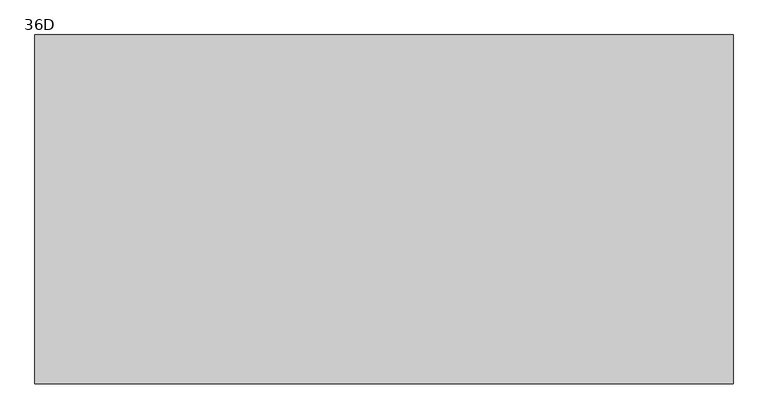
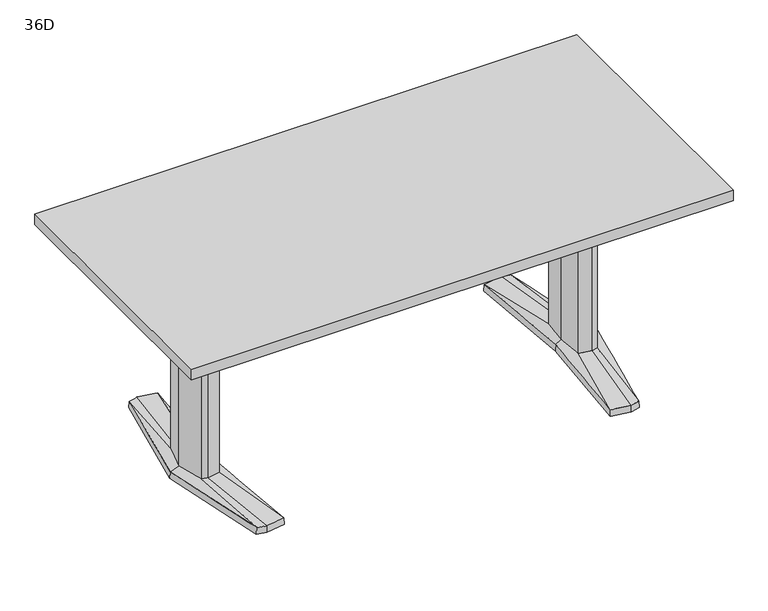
"""IFC4 building model written with IfcOpenShell, lengths in millimetres: furniture geometry, Coalesse_AM_Table_Conference_ETable2_Rectangular_72in_AluminiumBase : 36D."""

from ifc_helpers import new_model, si_unit, frame, origin, place, context, project, spatial, polyline, outline, extrude, source, transform, mapped, element, save
from ifc_brep_helpers import plane_surface, spline_surface, advanced_brep


def furniture_36d_3dbc22d1(model_context):
    return source(origin(), model_context, "Body", "SolidModel", [
        advanced_brep(
        [(614.8503471, -379.3768856, 25.4), (644.5756636, -371.5332654, 25.4), (668.2327243, -89.293702, 36.5125), (648.9795254, -94.605478, 36.5125), (606.0521001, -87.0529327, 36.5125), (551.7612538, -368.5071562, 25.4), (597.9364207, 0.0, 36.5125), (579.8389754, 0.3970149, 25.4), (606.0521001, 87.0529327, 36.5125), (551.7615002, 368.5172593, 25.4), (648.9795254, 94.605478, 36.5125), (614.8502233, 379.3769183, 25.4), (668.2327243, 89.293702, 36.5125), (644.7535458, 371.4863276, 25.4), (692.1595251, 0.0, 36.5125), (721.4851663, 0.0003516, 25.4), (578.2468742, 0.3968871, 3.175), (550.06875, 369.8367279, 3.175), (614.9213004, 381.0, 3.175), (646.1093245, 372.7704151, 3.175), (723.10625, 0.0, 3.175), (645.9309817, -372.8174744, 3.175), (614.9213004, -381.0, 3.175), (550.06875, -369.8264415, 3.175), (649.5979264, 107.6121478, 3.175), (594.3065451, 97.8843184, 3.175), (585.1810887, 0.0, 3.175), (594.3065451, -97.8843184, 3.175), (649.5979264, -107.6121478, 3.175), (678.6183473, -99.6056872, 3.175), (705.3083085, 0.0, 3.175), (678.6183473, 99.6056872, 3.175), (613.4286812, 346.9152841, 3.175), (557.7811371, 337.3364985, 3.175), (560.1889918, 324.8641942, 3.175), (612.8600644, 333.9306305, 3.175), (648.6725609, 324.4807859, 3.175), (647.5544526, 337.9105158, 3.175), (613.4286812, -346.9152841, 3.175), (647.5544526, -337.9105158, 3.175), (648.6725609, -324.4807859, 3.175), (612.8600644, -333.9306305, 3.175), (560.1889918, -324.8641942, 3.175), (557.7811371, -337.3364985, 3.175), (649.5979264, 107.6121478, 0.0), (678.6183473, 99.6056872, 0.0), (705.3083085, 0.0, 0.0), (678.6183473, -99.6056872, 0.0), (649.5979264, -107.6121478, 0.0), (594.3065451, -97.8843184, 0.0), (585.1810887, 0.0, 0.0), (594.3065451, 97.8843184, 0.0), (613.4286812, 346.9152841, 0.0), (647.5544526, 337.9105158, 0.0), (648.6725609, 324.4807859, 0.0), (612.8600644, 333.9306305, 0.0), (560.1889918, 324.8641942, 0.0), (557.7811371, 337.3364985, 0.0), (613.4286812, -346.9152841, 0.0), (557.7811371, -337.3364985, 0.0), (560.1889918, -324.8641942, 0.0), (612.8600644, -333.9306305, 0.0), (648.6725609, -324.4807859, 0.0), (647.5544526, -337.9105158, 0.0), (668.2327243, 89.293702, 698.5), (648.9795254, 94.605478, 698.5), (606.0521001, 87.0529327, 698.5), (597.9364207, 0.0, 698.5), (606.0521001, -87.0529327, 698.5), (648.9795254, -94.605478, 698.5), (668.2327243, -89.293702, 698.5), (692.1595251, 0.0, 698.5)],
        [
            (0, 1),
            (1, 2),
            (2, 3),
            (3, 0),
            (3, 4),
            (4, 5),
            (5, 0),
            (4, 6),
            (6, 7),
            (7, 5),
            (6, 8),
            (8, 9),
            (9, 7),
            (8, 10),
            (10, 11),
            (11, 9),
            (10, 12),
            (12, 13),
            (13, 11),
            (12, 14),
            (14, 15),
            (15, 13),
            (1, 15),
            (14, 2),
            (16, 17),
            (17, 18),
            (18, 19),
            (19, 20),
            (20, 21),
            (21, 22),
            (22, 23),
            (23, 16),
            (24, 25),
            (25, 26),
            (26, 27),
            (27, 28),
            (28, 29),
            (29, 30),
            (30, 31),
            (31, 24),
            (32, 33),
            (33, 34),
            (34, 35),
            (35, 36),
            (36, 37),
            (37, 32),
            (38, 39),
            (39, 40),
            (40, 41),
            (41, 42),
            (42, 43),
            (43, 38),
            (16, 7),
            (9, 17),
            (11, 18),
            (13, 19),
            (15, 20),
            (1, 21),
            (0, 22),
            (5, 23),
            (44, 45),
            (45, 46),
            (46, 47),
            (47, 48),
            (48, 49),
            (49, 50),
            (50, 51),
            (51, 44),
            (52, 53),
            (53, 54),
            (54, 55),
            (55, 56),
            (56, 57),
            (57, 52),
            (58, 59),
            (59, 60),
            (60, 61),
            (61, 62),
            (62, 63),
            (63, 58),
            (44, 24),
            (31, 45),
            (30, 46),
            (29, 47),
            (28, 48),
            (27, 49),
            (26, 50),
            (25, 51),
            (52, 32),
            (37, 53),
            (36, 54),
            (35, 55),
            (34, 56),
            (33, 57),
            (58, 38),
            (43, 59),
            (42, 60),
            (41, 61),
            (40, 62),
            (39, 63),
            (64, 65),
            (65, 66),
            (66, 67),
            (67, 68),
            (68, 69),
            (69, 70),
            (70, 71),
            (71, 64),
            (71, 14),
            (12, 64),
            (70, 2),
            (69, 3),
            (68, 4),
            (67, 6),
            (66, 8),
            (65, 10),
        ],
        [
            spline_surface(1, 1, [[(644.5756636, -371.5332654, 25.4), (614.8503471, -379.3768856, 25.4)], [(668.2327243, -89.293702, 36.5125), (648.9795254, -94.605478, 36.5125)]], [2, 2], [2, 2], [0.0, 1.0], [0.0, 1.0]),
            spline_surface(1, 1, [[(614.8503471, -379.3768856, 25.4), (551.7612538, -368.5071562, 25.4)], [(648.9795254, -94.605478, 36.5125), (606.0521001, -87.0529327, 36.5125)]], [2, 2], [2, 2], [0.0, 1.0], [0.0, 1.0]),
            spline_surface(1, 1, [[(551.7612538, -368.5071562, 25.4), (579.8389754, 0.3970149, 25.4)], [(606.0521001, -87.0529327, 36.5125), (597.9364207, 0.0, 36.5125)]], [2, 2], [2, 2], [0.0, 1.0], [0.0, 1.0]),
            spline_surface(1, 1, [[(579.8389754, 0.3970149, 25.4), (551.7615002, 368.5172593, 25.4)], [(597.9364207, 0.0, 36.5125), (606.0521001, 87.0529327, 36.5125)]], [2, 2], [2, 2], [0.0, 1.0], [0.0, 1.0]),
            spline_surface(1, 1, [[(551.7615002, 368.5172593, 25.4), (614.8502233, 379.3769183, 25.4)], [(606.0521001, 87.0529327, 36.5125), (648.9795254, 94.605478, 36.5125)]], [2, 2], [2, 2], [0.0, 1.0], [0.0, 1.0]),
            spline_surface(1, 1, [[(614.8502233, 379.3769183, 25.4), (644.7535458, 371.4863276, 25.4)], [(648.9795254, 94.605478, 36.5125), (668.2327243, 89.293702, 36.5125)]], [2, 2], [2, 2], [0.0, 1.0], [0.0, 1.0]),
            spline_surface(1, 1, [[(644.7535458, 371.4863276, 25.4), (721.4851663, 0.0003516, 25.4)], [(668.2327243, 89.293702, 36.5125), (692.1595251, 0.0, 36.5125)]], [2, 2], [2, 2], [0.0, 1.0], [0.0, 1.0]),
            spline_surface(1, 1, [[(721.4851663, 0.0003516, 25.4), (644.5756636, -371.5332654, 25.4)], [(692.1595251, 0.0, 36.5125), (668.2327243, -89.293702, 36.5125)]], [2, 2], [2, 2], [0.0, 1.0], [0.0, 1.0]),
            plane_surface(frame((615.4216914, 0.0450143, 3.175), z_axis=(0.0, 0.0, -1.0), x_axis=(-0.9669048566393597, -0.2551372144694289, 0.0))),
            plane_surface(frame((564.1578121, 185.1168075, 3.175), z_axis=(-0.9945699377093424, -0.07585840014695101, 0.0712470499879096), x_axis=(-0.07605167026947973, 0.9971038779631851, 0.0))),
            plane_surface(frame((582.4950252, 375.418364, 3.175), z_axis=(-0.1692071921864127, 0.9830019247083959, 0.07124704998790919), x_axis=(0.985506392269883, 0.16963829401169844, 0.0))),
            plane_surface(frame((630.5153124, 376.8852076, 3.175), z_axis=(0.2544888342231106, 0.9644476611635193, 0.07124704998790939), x_axis=(0.9669048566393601, -0.25513721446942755, 0.0))),
            plane_surface(frame((684.6077872, 186.3852076, 3.175), z_axis=(0.9768383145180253, 0.2017690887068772, 0.07124704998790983), x_axis=(0.20228315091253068, -0.9793270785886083, 0.0))),
            plane_surface(frame((684.5186158, -186.4087372, 3.175), z_axis=(0.9767507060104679, -0.20219276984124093, 0.07124704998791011), x_axis=(-0.2027079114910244, -0.9792392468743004, 0.0))),
            plane_surface(frame((630.426141, -376.9087372, 3.175), z_axis=(0.2544888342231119, -0.9644476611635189, 0.0712470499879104), x_axis=(-0.9669048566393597, -0.2551372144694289, 0.0))),
            plane_surface(frame((582.4950252, -375.4132207, 3.175), z_axis=(-0.16935861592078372, -0.982975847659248, 0.07124704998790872), x_axis=(-0.9854802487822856, 0.16979010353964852, 0.0))),
            plane_surface(frame((564.1578121, -184.7147772, 3.175), z_axis=(-0.9945820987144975, 0.07569878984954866, 0.07124704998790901), x_axis=(0.07589165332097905, 0.9971160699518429, 0.0))),
            plane_surface(frame((652.3571479, 106.8509046, 0.0), z_axis=(0.0, 0.0, -1.0000000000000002), x_axis=(-0.9639855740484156, 0.26595453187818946, 0.0))),
            plane_surface(frame((649.5979264, 107.6121478, 3.175), z_axis=(0.26595453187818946, 0.9639855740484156, 0.0), x_axis=(0.0, 0.0, -1.0))),
            plane_surface(frame((678.6183473, 99.6056872, 3.175), z_axis=(0.9659241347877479, 0.2588253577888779, 0.0), x_axis=(0.0, 0.0, -1.0))),
            plane_surface(frame((705.3083085, 0.0, 3.175), z_axis=(0.9659241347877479, -0.2588253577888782, 0.0), x_axis=(0.0, 0.0, -1.0))),
            plane_surface(frame((678.6183473, -99.6056872, 3.175), z_axis=(0.26595453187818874, -0.9639855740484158, 0.0), x_axis=(0.0, 0.0, -1.0))),
            plane_surface(frame((649.5979264, -107.6121478, 3.175), z_axis=(-0.17327617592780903, -0.9848732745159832, 0.0), x_axis=(0.0, 0.0, -1.0))),
            plane_surface(frame((594.3065451, -97.8843184, 3.175), z_axis=(-0.9956824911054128, -0.0928244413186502, 0.0), x_axis=(0.0, 0.0, -1.0))),
            plane_surface(frame((585.1810887, 0.0, 3.175), z_axis=(-0.9956824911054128, 0.09282444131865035, 0.0), x_axis=(0.0, 0.0, -1.0))),
            plane_surface(frame((594.3065451, 97.8843184, 3.175), z_axis=(-0.17327617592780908, 0.984873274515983, 0.0), x_axis=(0.0, 0.0, -1.0))),
            plane_surface(frame((613.4286812, 346.9152841, 3.175), z_axis=(0.25513721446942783, 0.9669048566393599, 0.0), x_axis=(0.0, 0.0, -1.0))),
            plane_surface(frame((647.5544526, 337.9105158, 3.175), z_axis=(0.9965521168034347, 0.0829691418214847, 0.0), x_axis=(0.0, 0.0, -1.0))),
            plane_surface(frame((648.6725609, 324.4807859, 3.175), z_axis=(-0.25513721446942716, -0.9669048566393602, 0.0), x_axis=(0.0, 0.0, -1.0))),
            plane_surface(frame((612.8600644, 333.9306305, 3.175), z_axis=(0.16963829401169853, -0.985506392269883, 0.0), x_axis=(0.0, 0.0, -1.0))),
            plane_surface(frame((560.1889918, 324.8641942, 3.175), z_axis=(-0.9818699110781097, -0.18955600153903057, 0.0), x_axis=(0.0, 0.0, -1.0))),
            plane_surface(frame((557.7811371, 337.3364985, 3.175), z_axis=(-0.16963829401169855, 0.9855063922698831, 0.0), x_axis=(0.0, 0.0, -1.0))),
            plane_surface(frame((613.4286812, -346.9152841, 3.175), z_axis=(-0.1696382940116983, -0.9855063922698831, 0.0), x_axis=(0.0, 0.0, -1.0))),
            plane_surface(frame((557.7811371, -337.3364985, 3.175), z_axis=(-0.9818699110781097, 0.18955600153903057, 0.0), x_axis=(0.0, 0.0, -1.0))),
            plane_surface(frame((560.1889918, -324.8641942, 3.175), z_axis=(0.16963829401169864, 0.985506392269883, 0.0), x_axis=(0.0, 0.0, -1.0))),
            plane_surface(frame((612.8600644, -333.9306305, 3.175), z_axis=(-0.2551372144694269, 0.9669048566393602, 0.0), x_axis=(0.0, 0.0, -1.0))),
            plane_surface(frame((648.6725609, -324.4807859, 3.175), z_axis=(0.9965521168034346, -0.0829691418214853, 0.0), x_axis=(0.0, 0.0, -1.0))),
            plane_surface(frame((647.5544526, -337.9105158, 3.175), z_axis=(0.2551372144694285, -0.9669048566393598, 0.0), x_axis=(0.0, 0.0, -1.0))),
            plane_surface(frame((692.1595251, 0.0, 698.5), z_axis=(0.0, 0.0, 1.0), x_axis=(0.25882535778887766, -0.965924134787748, 0.0))),
            plane_surface(frame((668.2327243, 89.293702, 698.5), z_axis=(0.965924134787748, 0.25882535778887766, 0.0), x_axis=(0.0, 0.0, -1.0))),
            plane_surface(frame((692.1595251, 0.0, 698.5), z_axis=(0.965924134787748, -0.2588253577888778, 0.0), x_axis=(0.0, 0.0, -1.0))),
            plane_surface(frame((668.2327243, -89.293702, 698.5), z_axis=(0.2659545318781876, -0.963985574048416, 0.0), x_axis=(0.0, 0.0, -1.0))),
            plane_surface(frame((648.9795254, -94.605478, 698.5), z_axis=(-0.1732761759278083, -0.9848732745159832, 0.0), x_axis=(0.0, 0.0, -1.0))),
            plane_surface(frame((606.0521001, -87.0529327, 698.5), z_axis=(-0.9956824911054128, -0.0928244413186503, 0.0), x_axis=(0.0, 0.0, -1.0))),
            plane_surface(frame((597.9364207, 0.0, 698.5), z_axis=(-0.9956824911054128, 0.09282444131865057, 0.0), x_axis=(0.0, 0.0, -1.0))),
            plane_surface(frame((606.0521001, 87.0529327, 698.5), z_axis=(-0.17327617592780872, 0.9848732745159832, 0.0), x_axis=(0.0, 0.0, -1.0))),
            plane_surface(frame((648.9795254, 94.605478, 698.5), z_axis=(0.26595453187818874, 0.9639855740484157, 0.0), x_axis=(0.0, 0.0, -1.0))),
        ],
        [
            (0, [[1, 2, 3, 4]]),
            (1, [[5, 6, 7, -4]]),
            (2, [[8, 9, 10, -6]]),
            (3, [[11, 12, 13, -9]]),
            (4, [[14, 15, 16, -12]]),
            (5, [[17, 18, 19, -15]]),
            (6, [[20, 21, 22, -18]]),
            (7, [[23, -21, 24, -2]]),
            (8, [[25, 26, 27, 28, 29, 30, 31, 32], [33, 34, 35, 36, 37, 38, 39, 40], [41, 42, 43, 44, 45, 46], [47, 48, 49, 50, 51, 52]]),
            (9, [[53, -13, 54, -25]]),
            (10, [[-54, -16, 55, -26]]),
            (11, [[-55, -19, 56, -27]]),
            (12, [[-56, -22, 57, -28]]),
            (13, [[-57, -23, 58, -29]]),
            (14, [[-58, -1, 59, -30]]),
            (15, [[-59, -7, 60, -31]]),
            (16, [[-60, -10, -53, -32]]),
            (17, [[61, 62, 63, 64, 65, 66, 67, 68]]),
            (17, [[69, 70, 71, 72, 73, 74]]),
            (17, [[75, 76, 77, 78, 79, 80]]),
            (18, [[81, -40, 82, -61]]),
            (19, [[-82, -39, 83, -62]]),
            (20, [[-83, -38, 84, -63]]),
            (21, [[-84, -37, 85, -64]]),
            (22, [[-85, -36, 86, -65]]),
            (23, [[-86, -35, 87, -66]]),
            (24, [[-87, -34, 88, -67]]),
            (25, [[-88, -33, -81, -68]]),
            (26, [[89, -46, 90, -69]]),
            (27, [[-90, -45, 91, -70]]),
            (28, [[-91, -44, 92, -71]]),
            (29, [[-92, -43, 93, -72]]),
            (30, [[-93, -42, 94, -73]]),
            (31, [[-94, -41, -89, -74]]),
            (32, [[95, -52, 96, -75]]),
            (33, [[-96, -51, 97, -76]]),
            (34, [[-97, -50, 98, -77]]),
            (35, [[-98, -49, 99, -78]]),
            (36, [[-99, -48, 100, -79]]),
            (37, [[-100, -47, -95, -80]]),
            (38, [[101, 102, 103, 104, 105, 106, 107, 108]]),
            (39, [[109, -20, 110, -108]]),
            (40, [[111, -24, -109, -107]]),
            (41, [[112, -3, -111, -106]]),
            (42, [[113, -5, -112, -105]]),
            (43, [[114, -8, -113, -104]]),
            (44, [[115, -11, -114, -103]]),
            (45, [[116, -14, -115, -102]]),
            (46, [[-110, -17, -116, -101]]),
        ],
    ),
        advanced_brep(
        [(-614.8503471, -379.3768856, 25.4), (-648.9795254, -94.605478, 36.5125), (-668.2327243, -89.293702, 36.5125), (-644.5756636, -371.5332654, 25.4), (-551.7612538, -368.5071562, 25.4), (-606.0521001, -87.0529327, 36.5125), (-579.8389754, 0.3970149, 25.4), (-597.9364207, 0.0, 36.5125), (-551.7615002, 368.5172593, 25.4), (-606.0521001, 87.0529327, 36.5125), (-614.8502233, 379.3769183, 25.4), (-648.9795254, 94.605478, 36.5125), (-644.7535458, 371.4863276, 25.4), (-668.2327243, 89.293702, 36.5125), (-721.4851663, 0.0003516, 25.4), (-692.1595251, 0.0, 36.5125), (-578.2468742, 0.3968871, 3.175), (-550.06875, -369.8264415, 3.175), (-614.9213004, -381.0, 3.175), (-645.9309817, -372.8174744, 3.175), (-723.10625, 0.0, 3.175), (-646.1093245, 372.7704151, 3.175), (-614.9213004, 381.0, 3.175), (-550.06875, 369.8367279, 3.175), (-649.5979264, 107.6121478, 3.175), (-678.6183473, 99.6056872, 3.175), (-705.3083085, 0.0, 3.175), (-678.6183473, -99.6056872, 3.175), (-649.5979264, -107.6121478, 3.175), (-594.3065451, -97.8843184, 3.175), (-585.1810887, 0.0, 3.175), (-594.3065451, 97.8843184, 3.175), (-613.4286812, 346.9152841, 3.175), (-647.5544526, 337.9105158, 3.175), (-648.6725609, 324.4807859, 3.175), (-612.8600644, 333.9306305, 3.175), (-560.1889918, 324.8641942, 3.175), (-557.7811371, 337.3364985, 3.175), (-613.4286812, -346.9152841, 3.175), (-557.7811371, -337.3364985, 3.175), (-560.1889918, -324.8641942, 3.175), (-612.8600644, -333.9306305, 3.175), (-648.6725609, -324.4807859, 3.175), (-647.5544526, -337.9105158, 3.175), (-649.5979264, 107.6121478, 0.0), (-594.3065451, 97.8843184, 0.0), (-585.1810887, 0.0, 0.0), (-594.3065451, -97.8843184, 0.0), (-649.5979264, -107.6121478, 0.0), (-678.6183473, -99.6056872, 0.0), (-705.3083085, 0.0, 0.0), (-678.6183473, 99.6056872, 0.0), (-613.4286812, 346.9152841, 0.0), (-557.7811371, 337.3364985, 0.0), (-560.1889918, 324.8641942, 0.0), (-612.8600644, 333.9306305, 0.0), (-648.6725609, 324.4807859, 0.0), (-647.5544526, 337.9105158, 0.0), (-613.4286812, -346.9152841, 0.0), (-647.5544526, -337.9105158, 0.0), (-648.6725609, -324.4807859, 0.0), (-612.8600644, -333.9306305, 0.0), (-560.1889918, -324.8641942, 0.0), (-557.7811371, -337.3364985, 0.0), (-668.2327243, 89.293702, 698.5), (-692.1595251, 0.0, 698.5), (-668.2327243, -89.293702, 698.5), (-648.9795254, -94.605478, 698.5), (-606.0521001, -87.0529327, 698.5), (-597.9364207, 0.0, 698.5), (-606.0521001, 87.0529327, 698.5), (-648.9795254, 94.605478, 698.5)],
        [
            (0, 1),
            (1, 2),
            (2, 3),
            (3, 0),
            (0, 4),
            (4, 5),
            (5, 1),
            (4, 6),
            (6, 7),
            (7, 5),
            (6, 8),
            (8, 9),
            (9, 7),
            (8, 10),
            (10, 11),
            (11, 9),
            (10, 12),
            (12, 13),
            (13, 11),
            (12, 14),
            (14, 15),
            (15, 13),
            (2, 15),
            (14, 3),
            (16, 17),
            (17, 18),
            (18, 19),
            (19, 20),
            (20, 21),
            (21, 22),
            (22, 23),
            (23, 16),
            (24, 25),
            (25, 26),
            (26, 27),
            (27, 28),
            (28, 29),
            (29, 30),
            (30, 31),
            (31, 24),
            (32, 33),
            (33, 34),
            (34, 35),
            (35, 36),
            (36, 37),
            (37, 32),
            (38, 39),
            (39, 40),
            (40, 41),
            (41, 42),
            (42, 43),
            (43, 38),
            (23, 8),
            (6, 16),
            (22, 10),
            (21, 12),
            (20, 14),
            (19, 3),
            (18, 0),
            (17, 4),
            (44, 45),
            (45, 46),
            (46, 47),
            (47, 48),
            (48, 49),
            (49, 50),
            (50, 51),
            (51, 44),
            (52, 53),
            (53, 54),
            (54, 55),
            (55, 56),
            (56, 57),
            (57, 52),
            (58, 59),
            (59, 60),
            (60, 61),
            (61, 62),
            (62, 63),
            (63, 58),
            (51, 25),
            (24, 44),
            (50, 26),
            (49, 27),
            (48, 28),
            (47, 29),
            (46, 30),
            (45, 31),
            (57, 33),
            (32, 52),
            (56, 34),
            (55, 35),
            (54, 36),
            (53, 37),
            (63, 39),
            (38, 58),
            (62, 40),
            (61, 41),
            (60, 42),
            (59, 43),
            (64, 65),
            (65, 66),
            (66, 67),
            (67, 68),
            (68, 69),
            (69, 70),
            (70, 71),
            (71, 64),
            (64, 13),
            (15, 65),
            (2, 66),
            (1, 67),
            (5, 68),
            (7, 69),
            (9, 70),
            (11, 71),
        ],
        [
            spline_surface(1, 1, [[(-644.5756636, -371.5332654, 25.4), (-668.2327243, -89.293702, 36.5125)], [(-614.8503471, -379.3768856, 25.4), (-648.9795254, -94.605478, 36.5125)]], [2, 2], [2, 2], [0.0, 1.0], [0.0, 1.0]),
            spline_surface(1, 1, [[(-614.8503471, -379.3768856, 25.4), (-648.9795254, -94.605478, 36.5125)], [(-551.7612538, -368.5071562, 25.4), (-606.0521001, -87.0529327, 36.5125)]], [2, 2], [2, 2], [0.0, 1.0], [0.0, 1.0]),
            spline_surface(1, 1, [[(-551.7612538, -368.5071562, 25.4), (-606.0521001, -87.0529327, 36.5125)], [(-579.8389754, 0.3970149, 25.4), (-597.9364207, 0.0, 36.5125)]], [2, 2], [2, 2], [0.0, 1.0], [0.0, 1.0]),
            spline_surface(1, 1, [[(-579.8389754, 0.3970149, 25.4), (-597.9364207, 0.0, 36.5125)], [(-551.7615002, 368.5172593, 25.4), (-606.0521001, 87.0529327, 36.5125)]], [2, 2], [2, 2], [0.0, 1.0], [0.0, 1.0]),
            spline_surface(1, 1, [[(-551.7615002, 368.5172593, 25.4), (-606.0521001, 87.0529327, 36.5125)], [(-614.8502233, 379.3769183, 25.4), (-648.9795254, 94.605478, 36.5125)]], [2, 2], [2, 2], [0.0, 1.0], [0.0, 1.0]),
            spline_surface(1, 1, [[(-614.8502233, 379.3769183, 25.4), (-648.9795254, 94.605478, 36.5125)], [(-644.7535458, 371.4863276, 25.4), (-668.2327243, 89.293702, 36.5125)]], [2, 2], [2, 2], [0.0, 1.0], [0.0, 1.0]),
            spline_surface(1, 1, [[(-644.7535458, 371.4863276, 25.4), (-668.2327243, 89.293702, 36.5125)], [(-721.4851663, 0.0003516, 25.4), (-692.1595251, 0.0, 36.5125)]], [2, 2], [2, 2], [0.0, 1.0], [0.0, 1.0]),
            spline_surface(1, 1, [[(-721.4851663, 0.0003516, 25.4), (-692.1595251, 0.0, 36.5125)], [(-644.5756636, -371.5332654, 25.4), (-668.2327243, -89.293702, 36.5125)]], [2, 2], [2, 2], [0.0, 1.0], [0.0, 1.0]),
            plane_surface(frame((-615.4216914, 0.0450143, 3.175), z_axis=(0.0, 0.0, -1.0), x_axis=(0.9669048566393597, -0.2551372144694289, 0.0))),
            plane_surface(frame((-564.1578121, 185.1168075, 3.175), z_axis=(0.9945699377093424, -0.07585840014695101, 0.0712470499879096), x_axis=(0.07605167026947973, 0.9971038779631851, 0.0))),
            plane_surface(frame((-582.4950252, 375.418364, 3.175), z_axis=(0.1692071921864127, 0.9830019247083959, 0.07124704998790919), x_axis=(-0.985506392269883, 0.16963829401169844, 0.0))),
            plane_surface(frame((-630.5153124, 376.8852076, 3.175), z_axis=(-0.2544888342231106, 0.9644476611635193, 0.07124704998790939), x_axis=(-0.9669048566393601, -0.25513721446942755, 0.0))),
            plane_surface(frame((-684.6077872, 186.3852076, 3.175), z_axis=(-0.9768383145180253, 0.2017690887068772, 0.07124704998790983), x_axis=(-0.20228315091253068, -0.9793270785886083, 0.0))),
            plane_surface(frame((-684.5186158, -186.4087372, 3.175), z_axis=(-0.9767507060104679, -0.20219276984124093, 0.07124704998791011), x_axis=(0.2027079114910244, -0.9792392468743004, 0.0))),
            plane_surface(frame((-630.426141, -376.9087372, 3.175), z_axis=(-0.2544888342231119, -0.9644476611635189, 0.0712470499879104), x_axis=(0.9669048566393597, -0.2551372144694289, 0.0))),
            plane_surface(frame((-582.4950252, -375.4132207, 3.175), z_axis=(0.16935861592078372, -0.982975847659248, 0.07124704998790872), x_axis=(0.9854802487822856, 0.16979010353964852, 0.0))),
            plane_surface(frame((-564.1578121, -184.7147772, 3.175), z_axis=(0.9945820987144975, 0.07569878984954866, 0.07124704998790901), x_axis=(-0.07589165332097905, 0.9971160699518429, 0.0))),
            plane_surface(frame((-652.3571479, 106.8509046, 0.0), z_axis=(0.0, 0.0, -1.0000000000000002), x_axis=(0.9639855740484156, 0.26595453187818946, 0.0))),
            plane_surface(frame((-649.5979264, 107.6121478, 3.175), z_axis=(-0.26595453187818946, 0.9639855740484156, 0.0), x_axis=(0.0, 0.0, -1.0))),
            plane_surface(frame((-678.6183473, 99.6056872, 3.175), z_axis=(-0.9659241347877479, 0.2588253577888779, 0.0), x_axis=(0.0, 0.0, -1.0))),
            plane_surface(frame((-705.3083085, 0.0, 3.175), z_axis=(-0.9659241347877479, -0.2588253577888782, 0.0), x_axis=(0.0, 0.0, -1.0))),
            plane_surface(frame((-678.6183473, -99.6056872, 3.175), z_axis=(-0.26595453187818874, -0.9639855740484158, 0.0), x_axis=(0.0, 0.0, -1.0))),
            plane_surface(frame((-649.5979264, -107.6121478, 3.175), z_axis=(0.17327617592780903, -0.9848732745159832, 0.0), x_axis=(0.0, 0.0, -1.0))),
            plane_surface(frame((-594.3065451, -97.8843184, 3.175), z_axis=(0.9956824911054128, -0.0928244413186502, 0.0), x_axis=(0.0, 0.0, -1.0))),
            plane_surface(frame((-585.1810887, 0.0, 3.175), z_axis=(0.9956824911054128, 0.09282444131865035, 0.0), x_axis=(0.0, 0.0, -1.0))),
            plane_surface(frame((-594.3065451, 97.8843184, 3.175), z_axis=(0.17327617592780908, 0.984873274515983, 0.0), x_axis=(0.0, 0.0, -1.0))),
            plane_surface(frame((-613.4286812, 346.9152841, 3.175), z_axis=(-0.25513721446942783, 0.9669048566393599, 0.0), x_axis=(0.0, 0.0, -1.0))),
            plane_surface(frame((-647.5544526, 337.9105158, 3.175), z_axis=(-0.9965521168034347, 0.0829691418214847, 0.0), x_axis=(0.0, 0.0, -1.0))),
            plane_surface(frame((-648.6725609, 324.4807859, 3.175), z_axis=(0.25513721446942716, -0.9669048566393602, 0.0), x_axis=(0.0, 0.0, -1.0))),
            plane_surface(frame((-612.8600644, 333.9306305, 3.175), z_axis=(-0.16963829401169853, -0.985506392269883, 0.0), x_axis=(0.0, 0.0, -1.0))),
            plane_surface(frame((-560.1889918, 324.8641942, 3.175), z_axis=(0.9818699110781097, -0.18955600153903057, 0.0), x_axis=(0.0, 0.0, -1.0))),
            plane_surface(frame((-557.7811371, 337.3364985, 3.175), z_axis=(0.16963829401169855, 0.9855063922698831, 0.0), x_axis=(0.0, 0.0, -1.0))),
            plane_surface(frame((-613.4286812, -346.9152841, 3.175), z_axis=(0.1696382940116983, -0.9855063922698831, 0.0), x_axis=(0.0, 0.0, -1.0))),
            plane_surface(frame((-557.7811371, -337.3364985, 3.175), z_axis=(0.9818699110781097, 0.18955600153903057, 0.0), x_axis=(0.0, 0.0, -1.0))),
            plane_surface(frame((-560.1889918, -324.8641942, 3.175), z_axis=(-0.16963829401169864, 0.985506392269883, 0.0), x_axis=(0.0, 0.0, -1.0))),
            plane_surface(frame((-612.8600644, -333.9306305, 3.175), z_axis=(0.2551372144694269, 0.9669048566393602, 0.0), x_axis=(0.0, 0.0, -1.0))),
            plane_surface(frame((-648.6725609, -324.4807859, 3.175), z_axis=(-0.9965521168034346, -0.0829691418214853, 0.0), x_axis=(0.0, 0.0, -1.0))),
            plane_surface(frame((-647.5544526, -337.9105158, 3.175), z_axis=(-0.2551372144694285, -0.9669048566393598, 0.0), x_axis=(0.0, 0.0, -1.0))),
            plane_surface(frame((-692.1595251, 0.0, 698.5), z_axis=(0.0, 0.0, 1.0), x_axis=(-0.25882535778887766, -0.965924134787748, 0.0))),
            plane_surface(frame((-668.2327243, 89.293702, 698.5), z_axis=(-0.965924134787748, 0.25882535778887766, 0.0), x_axis=(0.0, 0.0, -1.0))),
            plane_surface(frame((-692.1595251, 0.0, 698.5), z_axis=(-0.965924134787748, -0.2588253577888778, 0.0), x_axis=(0.0, 0.0, -1.0))),
            plane_surface(frame((-668.2327243, -89.293702, 698.5), z_axis=(-0.2659545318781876, -0.963985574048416, 0.0), x_axis=(0.0, 0.0, -1.0))),
            plane_surface(frame((-648.9795254, -94.605478, 698.5), z_axis=(0.1732761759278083, -0.9848732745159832, 0.0), x_axis=(0.0, 0.0, -1.0))),
            plane_surface(frame((-606.0521001, -87.0529327, 698.5), z_axis=(0.9956824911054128, -0.0928244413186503, 0.0), x_axis=(0.0, 0.0, -1.0))),
            plane_surface(frame((-597.9364207, 0.0, 698.5), z_axis=(0.9956824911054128, 0.09282444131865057, 0.0), x_axis=(0.0, 0.0, -1.0))),
            plane_surface(frame((-606.0521001, 87.0529327, 698.5), z_axis=(0.17327617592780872, 0.9848732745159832, 0.0), x_axis=(0.0, 0.0, -1.0))),
            plane_surface(frame((-648.9795254, 94.605478, 698.5), z_axis=(-0.26595453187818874, 0.9639855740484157, 0.0), x_axis=(0.0, 0.0, -1.0))),
        ],
        [
            (0, [[1, 2, 3, 4]]),
            (1, [[-1, 5, 6, 7]]),
            (2, [[-6, 8, 9, 10]]),
            (3, [[-9, 11, 12, 13]]),
            (4, [[-12, 14, 15, 16]]),
            (5, [[-15, 17, 18, 19]]),
            (6, [[-18, 20, 21, 22]]),
            (7, [[-3, 23, -21, 24]]),
            (8, [[25, 26, 27, 28, 29, 30, 31, 32], [33, 34, 35, 36, 37, 38, 39, 40], [41, 42, 43, 44, 45, 46], [47, 48, 49, 50, 51, 52]]),
            (9, [[-32, 53, -11, 54]]),
            (10, [[-31, 55, -14, -53]]),
            (11, [[-30, 56, -17, -55]]),
            (12, [[-29, 57, -20, -56]]),
            (13, [[-28, 58, -24, -57]]),
            (14, [[-27, 59, -4, -58]]),
            (15, [[-26, 60, -5, -59]]),
            (16, [[-25, -54, -8, -60]]),
            (17, [[61, 62, 63, 64, 65, 66, 67, 68]]),
            (17, [[69, 70, 71, 72, 73, 74]]),
            (17, [[75, 76, 77, 78, 79, 80]]),
            (18, [[-68, 81, -33, 82]]),
            (19, [[-67, 83, -34, -81]]),
            (20, [[-66, 84, -35, -83]]),
            (21, [[-65, 85, -36, -84]]),
            (22, [[-64, 86, -37, -85]]),
            (23, [[-63, 87, -38, -86]]),
            (24, [[-62, 88, -39, -87]]),
            (25, [[-61, -82, -40, -88]]),
            (26, [[-74, 89, -41, 90]]),
            (27, [[-73, 91, -42, -89]]),
            (28, [[-72, 92, -43, -91]]),
            (29, [[-71, 93, -44, -92]]),
            (30, [[-70, 94, -45, -93]]),
            (31, [[-69, -90, -46, -94]]),
            (32, [[-80, 95, -47, 96]]),
            (33, [[-79, 97, -48, -95]]),
            (34, [[-78, 98, -49, -97]]),
            (35, [[-77, 99, -50, -98]]),
            (36, [[-76, 100, -51, -99]]),
            (37, [[-75, -96, -52, -100]]),
            (38, [[101, 102, 103, 104, 105, 106, 107, 108]]),
            (39, [[-101, 109, -22, 110]]),
            (40, [[-102, -110, -23, 111]]),
            (41, [[-103, -111, -2, 112]]),
            (42, [[-104, -112, -7, 113]]),
            (43, [[-105, -113, -10, 114]]),
            (44, [[-106, -114, -13, 115]]),
            (45, [[-107, -115, -16, 116]]),
            (46, [[-108, -116, -19, -109]]),
        ],
    ),
        extrude(outline(polyline([(-914.4, -457.2), (-914.4, 457.2), (914.4, 457.2), (914.4, -457.2), (-914.4, -457.2)])), frame((0.0, 0.0, 698.5), z_axis=(0.0, 0.0, 1.0), x_axis=(1.0, 0.0, 0.0)), (0.0, 0.0, 1.0), 38.1),
        extrude(outline(polyline([(96.8375, 698.5), (103.1875, 698.5), (103.1875, 476.25), (-103.1875, 476.25), (-103.1875, 698.5), (-96.8375, 698.5), (-96.8375, 482.6), (96.8375, 482.6), (96.8375, 698.5)])), frame((-597.9364207, 0.0, 0.0), z_axis=(1.0, 0.0, 0.0), x_axis=(0.0, 1.0, 0.0)), (0.0, 0.0, 1.0), 1195.8728415),
    ])


if __name__ == "__main__":
    model = new_model("IFC4")
    model_context = context("Model", 3, world=origin())
    ifc_project = project(units=[si_unit("LENGTHUNIT", "METRE", prefix="MILLI")], contexts=[model_context])
    site = spatial("IfcSite", under=ifc_project)
    building = spatial("IfcBuilding", under=site)
    placement = place(None, origin())
    furniture_36d_shape = furniture_36d_3dbc22d1(model_context)
    element("IfcFurniture", 1, ObjectType="Coalesse_AM_Table_Conference_ETable2_Rectangular_72in_AluminiumBase : 36D", at=placement, inside=building, context=model_context, shape_type="MappedRepresentation", body=[
        mapped(furniture_36d_shape, transform((0.0, 0.0, 0.0), x_axis=(1.0, 0.0, 0.0), y_axis=(0.0, 1.0, 0.0), z_axis=(0.0, 0.0, 1.0))),
    ])
    save(model, "model.ifc")
